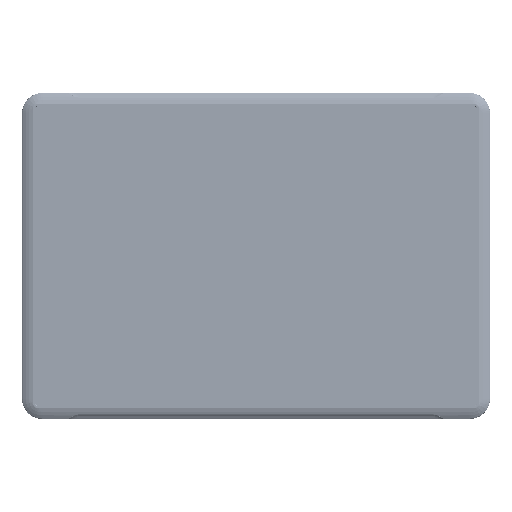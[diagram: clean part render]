
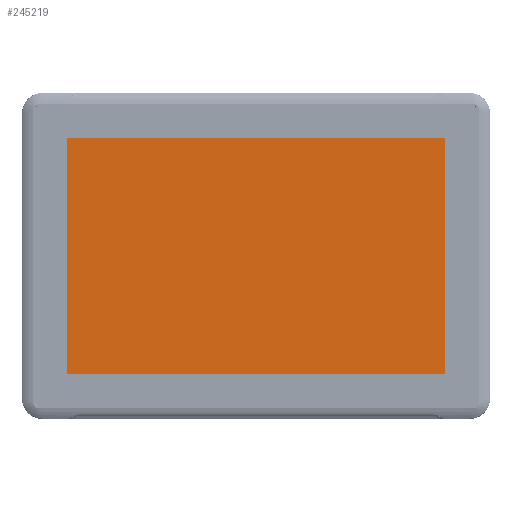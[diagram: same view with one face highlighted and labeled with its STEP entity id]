
A CAD part, top view. The second image highlights one B-rep face of the part: STEP entity #245219.
In plain terms, the highlighted planar face has unit normal (0, 0, 1).
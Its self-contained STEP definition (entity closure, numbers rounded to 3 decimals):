
#11482 = LINE ( 'NONE', #248384, #35712 ) ;
#14549 = EDGE_CURVE ( 'NONE', #612420, #51426, #714265, .T. ) ;
#24089 = LINE ( 'NONE', #24481, #644322 ) ;
#24481 = CARTESIAN_POINT ( 'NONE',  ( 165.8, -103.7, 0.001 ) ) ;
#34672 = PLANE ( 'NONE',  #297726 ) ;
#35712 = VECTOR ( 'NONE', #482751, 1000. ) ;
#51426 = VERTEX_POINT ( 'NONE', #567447 ) ;
#112832 = DIRECTION ( 'NONE',  ( 0., 0., 1. ) ) ;
#115924 = VERTEX_POINT ( 'NONE', #144857 ) ;
#144857 = CARTESIAN_POINT ( 'NONE',  ( 165.8, 103.7, 0.001 ) ) ;
#149478 = DIRECTION ( 'NONE',  ( 0., -1., 0. ) ) ;
#180801 = DIRECTION ( 'NONE',  ( 0., 1., 0. ) ) ;
#245219 = ADVANCED_FACE ( 'NONE', ( #631976 ), #34672, .T. ) ;
#248384 = CARTESIAN_POINT ( 'NONE',  ( 165.8, 103.7, 0.001 ) ) ;
#297726 = AXIS2_PLACEMENT_3D ( 'NONE', #578442, #112832, #656627 ) ;
#337138 = EDGE_LOOP ( 'NONE', ( #926681, #778593, #806875, #754811 ) ) ;
#377424 = VECTOR ( 'NONE', #149478, 1000. ) ;
#459899 = VERTEX_POINT ( 'NONE', #664004 ) ;
#482751 = DIRECTION ( 'NONE',  ( -1., 0., 0. ) ) ;
#507311 = VECTOR ( 'NONE', #857217, 1000. ) ;
#567447 = CARTESIAN_POINT ( 'NONE',  ( 165.8, -103.7, 0.001 ) ) ;
#578442 = CARTESIAN_POINT ( 'NONE',  ( 0., 0., 0.001 ) ) ;
#607242 = CARTESIAN_POINT ( 'NONE',  ( -165.8, -103.7, 0.001 ) ) ;
#608598 = LINE ( 'NONE', #693189, #377424 ) ;
#612420 = VERTEX_POINT ( 'NONE', #607242 ) ;
#631976 = FACE_OUTER_BOUND ( 'NONE', #337138, .T. ) ;
#644322 = VECTOR ( 'NONE', #180801, 1000. ) ;
#656627 = DIRECTION ( 'NONE',  ( 1., 0., 0. ) ) ;
#664004 = CARTESIAN_POINT ( 'NONE',  ( -165.8, 103.7, 0.001 ) ) ;
#685613 = EDGE_CURVE ( 'NONE', #51426, #115924, #24089, .T. ) ;
#693189 = CARTESIAN_POINT ( 'NONE',  ( -165.8, -103.7, 0.001 ) ) ;
#714265 = LINE ( 'NONE', #935300, #507311 ) ;
#754811 = ORIENTED_EDGE ( 'NONE', *, *, #922234, .T. ) ;
#778593 = ORIENTED_EDGE ( 'NONE', *, *, #14549, .T. ) ;
#806875 = ORIENTED_EDGE ( 'NONE', *, *, #685613, .T. ) ;
#857217 = DIRECTION ( 'NONE',  ( 1., 0., 0. ) ) ;
#922234 = EDGE_CURVE ( 'NONE', #115924, #459899, #11482, .T. ) ;
#926681 = ORIENTED_EDGE ( 'NONE', *, *, #942774, .T. ) ;
#935300 = CARTESIAN_POINT ( 'NONE',  ( 165.8, -103.7, 0.001 ) ) ;
#942774 = EDGE_CURVE ( 'NONE', #459899, #612420, #608598, .T. ) ;
